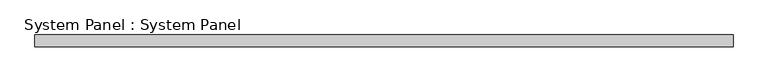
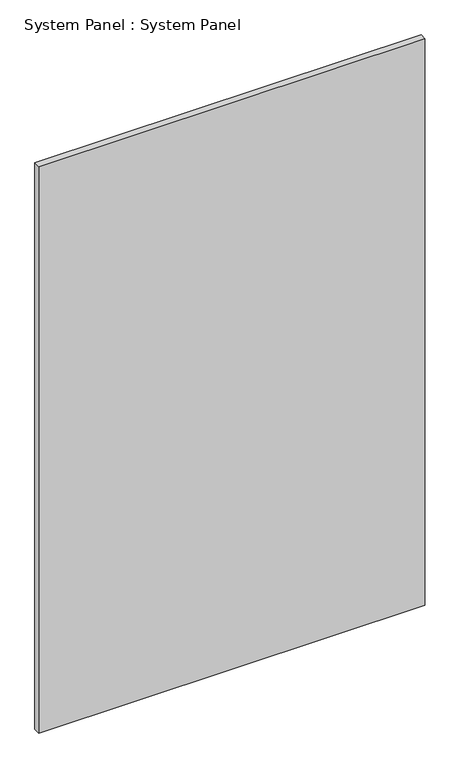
"""IFC4 building model written with IfcOpenShell, lengths in millimetres: plate geometry, System Panel : System Panel."""

from ifc_helpers import new_model, si_unit, origin, origin_with_axes, place, context, project, spatial, polyline, outline, extrude, source, transform, mapped, element, save


def system_panel_system_panel_0b02f3c1(model_context):
    return source(origin(), model_context, "Body", "SweptSolid", [
        extrude(outline(polyline([(755.65, 19.05), (-755.65, 19.05), (-755.65, 44.45), (755.65, 44.45), (755.65, 19.05)])), origin_with_axes(), (0.0, 0.0, 1.0), 2343.15),
    ])


if __name__ == "__main__":
    model = new_model("IFC4")
    model_context = context("Model", 3, world=origin())
    ifc_project = project(units=[si_unit("LENGTHUNIT", "METRE", prefix="MILLI")], contexts=[model_context])
    site = spatial("IfcSite", under=ifc_project)
    building = spatial("IfcBuilding", under=site)
    placement = place(None, origin())
    system_panel_system_panel_shape = system_panel_system_panel_0b02f3c1(model_context)
    element("IfcPlate", 1, ObjectType="System Panel : System Panel", at=placement, inside=building, context=model_context, shape_type="MappedRepresentation", body=[
        mapped(system_panel_system_panel_shape, transform((0.0, 0.0, 0.0), x_axis=(1.0, 0.0, 0.0), y_axis=(0.0, 1.0, 0.0), z_axis=(0.0, 0.0, 1.0))),
    ])
    save(model, "model.ifc")
